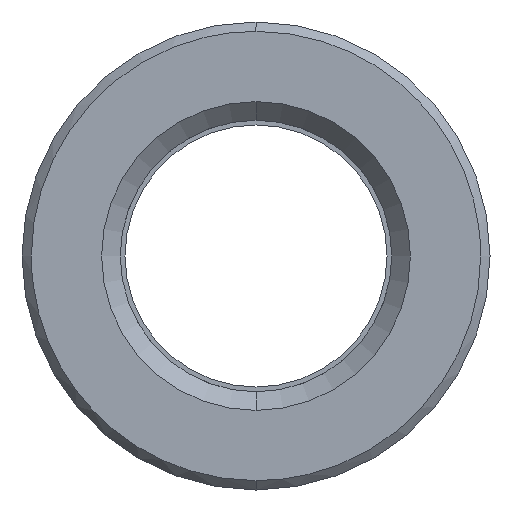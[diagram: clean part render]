
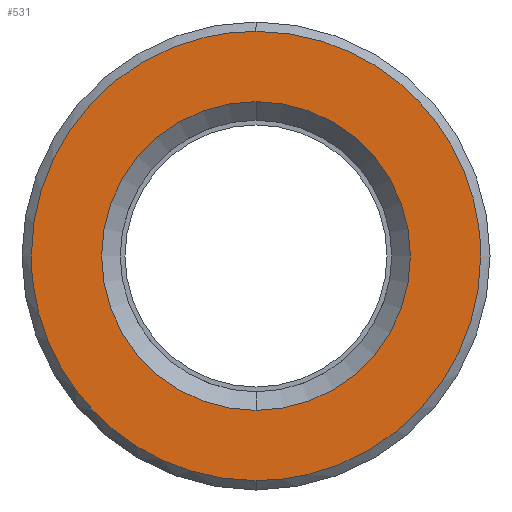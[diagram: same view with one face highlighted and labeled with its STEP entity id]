
A CAD part, left-side view. The second image highlights one B-rep face of the part: STEP entity #531.
In plain terms, the highlighted planar face has unit normal (-1, 0, 0).
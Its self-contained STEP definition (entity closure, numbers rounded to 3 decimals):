
#311=CARTESIAN_POINT('Axis2P3D Location',(0.,0.,0.)) ;
#315=CARTESIAN_POINT('Vertex',(0.,8.25,0.)) ;
#317=CARTESIAN_POINT('Vertex',(0.,0.,8.25)) ;
#320=CARTESIAN_POINT('Axis2P3D Location',(0.,0.,0.)) ;
#324=CARTESIAN_POINT('Vertex',(0.,0.,-8.25)) ;
#351=CARTESIAN_POINT('Axis2P3D Location',(0.,0.,0.)) ;
#355=CARTESIAN_POINT('Vertex',(0.,-8.25,0.)) ;
#358=CARTESIAN_POINT('Axis2P3D Location',(0.,0.,0.)) ;
#438=CARTESIAN_POINT('Axis2P3D Location',(0.,12.,0.)) ;
#444=CARTESIAN_POINT('Control Point',(0.,0.,-12.)) ;
#445=CARTESIAN_POINT('Control Point',(0.,0.982,-12.)) ;
#446=CARTESIAN_POINT('Control Point',(0.,1.964,-11.9)) ;
#447=CARTESIAN_POINT('Control Point',(0.,2.932,-11.699)) ;
#448=CARTESIAN_POINT('Control Point',(0.,5.011,-11.039)) ;
#449=CARTESIAN_POINT('Control Point',(0.,6.895,-9.93)) ;
#450=CARTESIAN_POINT('Control Point',(0.,7.845,-9.197)) ;
#451=CARTESIAN_POINT('Control Point',(0.,9.546,-7.512)) ;
#452=CARTESIAN_POINT('Control Point',(0.,10.784,-5.463)) ;
#453=CARTESIAN_POINT('Control Point',(0.,11.273,-4.367)) ;
#454=CARTESIAN_POINT('Control Point',(0.,11.741,-2.824)) ;
#455=CARTESIAN_POINT('Control Point',(0.,11.947,-1.236)) ;
#456=CARTESIAN_POINT('Control Point',(0.,11.982,-0.824)) ;
#457=CARTESIAN_POINT('Control Point',(0.,12.,-0.412)) ;
#458=CARTESIAN_POINT('Control Point',(0.,12.,0.)) ;
#459=CARTESIAN_POINT('Vertex',(0.,0.,-12.)) ;
#461=CARTESIAN_POINT('Vertex',(0.,12.,0.)) ;
#465=CARTESIAN_POINT('Control Point',(0.,-12.,0.)) ;
#466=CARTESIAN_POINT('Control Point',(0.,-12.,-1.188)) ;
#467=CARTESIAN_POINT('Control Point',(0.,-11.853,-2.376)) ;
#468=CARTESIAN_POINT('Control Point',(0.,-11.559,-3.54)) ;
#469=CARTESIAN_POINT('Control Point',(0.,-10.689,-5.77)) ;
#470=CARTESIAN_POINT('Control Point',(0.,-9.302,-7.721)) ;
#471=CARTESIAN_POINT('Control Point',(0.,-8.49,-8.605)) ;
#472=CARTESIAN_POINT('Control Point',(0.,-6.665,-10.155)) ;
#473=CARTESIAN_POINT('Control Point',(0.,-4.518,-11.213)) ;
#474=CARTESIAN_POINT('Control Point',(0.,-3.384,-11.606)) ;
#475=CARTESIAN_POINT('Control Point',(0.,-2.01,-11.897)) ;
#476=CARTESIAN_POINT('Control Point',(0.,-0.618,-11.987)) ;
#477=CARTESIAN_POINT('Control Point',(0.,-0.412,-11.996)) ;
#478=CARTESIAN_POINT('Control Point',(0.,-0.206,-12.)) ;
#479=CARTESIAN_POINT('Control Point',(0.,0.,-12.)) ;
#480=CARTESIAN_POINT('Vertex',(0.,-12.,0.)) ;
#484=CARTESIAN_POINT('Control Point',(0.,0.,12.)) ;
#485=CARTESIAN_POINT('Control Point',(0.,-0.982,12.)) ;
#486=CARTESIAN_POINT('Control Point',(0.,-1.964,11.9)) ;
#487=CARTESIAN_POINT('Control Point',(0.,-2.932,11.699)) ;
#488=CARTESIAN_POINT('Control Point',(0.,-5.011,11.039)) ;
#489=CARTESIAN_POINT('Control Point',(0.,-6.895,9.93)) ;
#490=CARTESIAN_POINT('Control Point',(0.,-7.845,9.197)) ;
#491=CARTESIAN_POINT('Control Point',(0.,-9.546,7.512)) ;
#492=CARTESIAN_POINT('Control Point',(0.,-10.784,5.463)) ;
#493=CARTESIAN_POINT('Control Point',(0.,-11.273,4.367)) ;
#494=CARTESIAN_POINT('Control Point',(0.,-11.741,2.824)) ;
#495=CARTESIAN_POINT('Control Point',(0.,-11.947,1.236)) ;
#496=CARTESIAN_POINT('Control Point',(0.,-11.982,0.824)) ;
#497=CARTESIAN_POINT('Control Point',(0.,-12.,0.412)) ;
#498=CARTESIAN_POINT('Control Point',(0.,-12.,0.)) ;
#499=CARTESIAN_POINT('Vertex',(0.,0.,12.)) ;
#503=CARTESIAN_POINT('Control Point',(0.,12.,0.)) ;
#504=CARTESIAN_POINT('Control Point',(0.,12.,1.188)) ;
#505=CARTESIAN_POINT('Control Point',(0.,11.853,2.376)) ;
#506=CARTESIAN_POINT('Control Point',(0.,11.559,3.54)) ;
#507=CARTESIAN_POINT('Control Point',(0.,10.689,5.77)) ;
#508=CARTESIAN_POINT('Control Point',(0.,9.302,7.721)) ;
#509=CARTESIAN_POINT('Control Point',(0.,8.49,8.605)) ;
#510=CARTESIAN_POINT('Control Point',(0.,6.665,10.155)) ;
#511=CARTESIAN_POINT('Control Point',(0.,4.518,11.213)) ;
#512=CARTESIAN_POINT('Control Point',(0.,3.384,11.606)) ;
#513=CARTESIAN_POINT('Control Point',(0.,2.01,11.897)) ;
#514=CARTESIAN_POINT('Control Point',(0.,0.618,11.987)) ;
#515=CARTESIAN_POINT('Control Point',(0.,0.412,11.996)) ;
#516=CARTESIAN_POINT('Control Point',(0.,0.206,12.)) ;
#517=CARTESIAN_POINT('Control Point',(0.,0.,12.)) ;
#312=DIRECTION('Axis2P3D Direction',(-1.,0.,0.)) ;
#321=DIRECTION('Axis2P3D Direction',(-1.,0.,0.)) ;
#352=DIRECTION('Axis2P3D Direction',(-1.,0.,0.)) ;
#359=DIRECTION('Axis2P3D Direction',(-1.,0.,0.)) ;
#439=DIRECTION('Axis2P3D Direction',(-1.,0.,0.)) ;
#440=DIRECTION('Axis2P3D XDirection',(0.,0.,1.)) ;
#313=AXIS2_PLACEMENT_3D('Circle Axis2P3D',#311,#312,$) ;
#322=AXIS2_PLACEMENT_3D('Circle Axis2P3D',#320,#321,$) ;
#353=AXIS2_PLACEMENT_3D('Circle Axis2P3D',#351,#352,$) ;
#360=AXIS2_PLACEMENT_3D('Circle Axis2P3D',#358,#359,$) ;
#441=AXIS2_PLACEMENT_3D('Plane Axis2P3D',#438,#439,#440) ;
#520=ORIENTED_EDGE('',*,*,#463,.F.) ;
#521=ORIENTED_EDGE('',*,*,#482,.F.) ;
#522=ORIENTED_EDGE('',*,*,#501,.F.) ;
#523=ORIENTED_EDGE('',*,*,#518,.F.) ;
#526=ORIENTED_EDGE('',*,*,#319,.T.) ;
#527=ORIENTED_EDGE('',*,*,#362,.T.) ;
#528=ORIENTED_EDGE('',*,*,#357,.T.) ;
#529=ORIENTED_EDGE('',*,*,#326,.T.) ;
#530=FACE_BOUND('',#525,.T.) ;
#531=ADVANCED_FACE('553-14x56',(#524,#530),#442,.T.) ;
#443=B_SPLINE_CURVE_WITH_KNOTS('',5,(#444,#445,#446,#447,#448,#449,#450,#451,#452,#453,#454,#455,#456,#457,#458),.UNSPECIFIED.,.F.,.U.,(6,3,3,3,6),(26.657,33.6,42.,50.399,53.312),.UNSPECIFIED.) ;
#464=B_SPLINE_CURVE_WITH_KNOTS('',5,(#465,#466,#467,#468,#469,#470,#471,#472,#473,#474,#475,#476,#477,#478,#479),.UNSPECIFIED.,.F.,.U.,(6,3,3,3,6),(0.,8.4,16.8,25.2,26.657),.UNSPECIFIED.) ;
#483=B_SPLINE_CURVE_WITH_KNOTS('',5,(#484,#485,#486,#487,#488,#489,#490,#491,#492,#493,#494,#495,#496,#497,#498),.UNSPECIFIED.,.F.,.U.,(6,3,3,3,6),(26.657,33.6,42.,50.399,53.312),.UNSPECIFIED.) ;
#502=B_SPLINE_CURVE_WITH_KNOTS('',5,(#503,#504,#505,#506,#507,#508,#509,#510,#511,#512,#513,#514,#515,#516,#517),.UNSPECIFIED.,.F.,.U.,(6,3,3,3,6),(0.,8.4,16.8,25.2,26.657),.UNSPECIFIED.) ;
#314=CIRCLE('generated circle',#313,8.25) ;
#323=CIRCLE('generated circle',#322,8.25) ;
#354=CIRCLE('generated circle',#353,8.25) ;
#361=CIRCLE('generated circle',#360,8.25) ;
#319=EDGE_CURVE('',#316,#318,#314,.F.) ;
#326=EDGE_CURVE('',#325,#316,#323,.F.) ;
#357=EDGE_CURVE('',#356,#325,#354,.F.) ;
#362=EDGE_CURVE('',#318,#356,#361,.F.) ;
#463=EDGE_CURVE('',#460,#462,#443,.T.) ;
#482=EDGE_CURVE('',#481,#460,#464,.T.) ;
#501=EDGE_CURVE('',#500,#481,#483,.T.) ;
#518=EDGE_CURVE('',#462,#500,#502,.T.) ;
#519=EDGE_LOOP('',(#520,#521,#522,#523)) ;
#525=EDGE_LOOP('',(#526,#527,#528,#529)) ;
#524=FACE_OUTER_BOUND('',#519,.T.) ;
#442=PLANE('Plane',#441) ;
#316=VERTEX_POINT('',#315) ;
#318=VERTEX_POINT('',#317) ;
#325=VERTEX_POINT('',#324) ;
#356=VERTEX_POINT('',#355) ;
#460=VERTEX_POINT('',#459) ;
#462=VERTEX_POINT('',#461) ;
#481=VERTEX_POINT('',#480) ;
#500=VERTEX_POINT('',#499) ;
